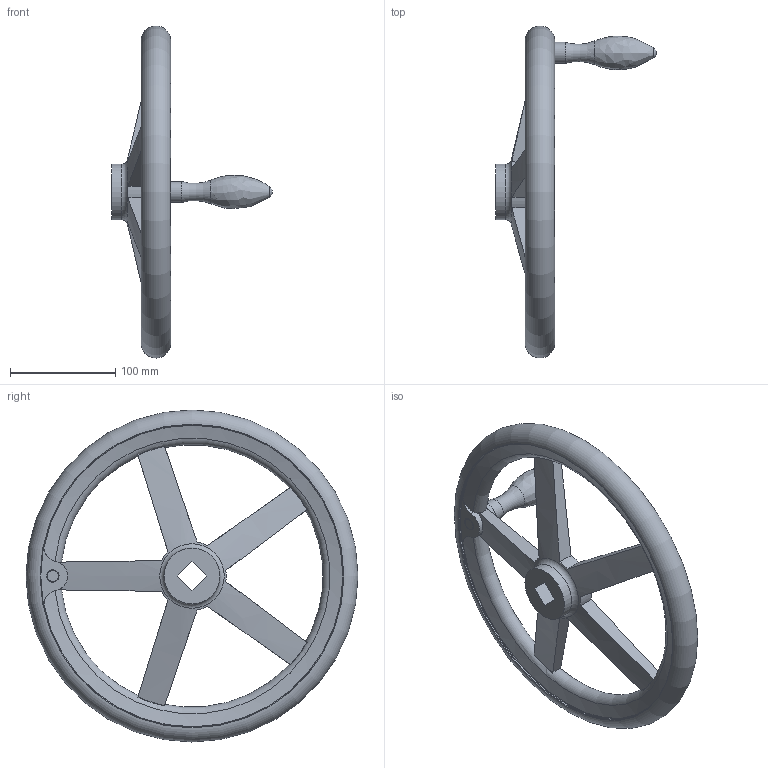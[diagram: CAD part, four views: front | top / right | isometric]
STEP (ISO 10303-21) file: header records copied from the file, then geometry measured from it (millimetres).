
FILE_DESCRIPTION( ( 'STEP AP203' ), '1' );
FILE_NAME( 'C:/Temp/Ganter_Step_05_03_2020/data/1_3/din_950/din_950_v/din_950_v_f/Handwheel DIN 950-AL-315-V19-F.stp', '2020-03-05T10:31:48', ( 'License CC BY-ND 4.0' ), ( 'CADENAS' ), ' ', 'PARTsolutions', ' ' );
FILE_SCHEMA( ( 'CONFIG_CONTROL_DESIGN' ) );
Length unit declared in the file: millimetre
Products named in the file (1): _Handwheel DIN 950-AL-315-V19-F
Bounding box: 152.5 x 315 x 315 mm (x, y, z)
Volume: 860830.2 mm3; surface area: 143375.1 mm2
Topology: 1 solids, 1 shells, 64 faces, 190 edges, 123 vertices
Faces by surface type: torus 21, plane 19, cylinder 16, cone 6, sphere 1, bspline 1
Full cylindrical faces by diameter (mm): 20 x1, 53 x2, 287 x2
Entity records: 2634 total; most frequent: CARTESIAN_POINT 1067, ORIENTED_EDGE 326, DIRECTION 284, EDGE_CURVE 163, AXIS2_PLACEMENT_3D 129, VERTEX_POINT 117, EDGE_LOOP 90, FACE_OUTER_BOUND 78
